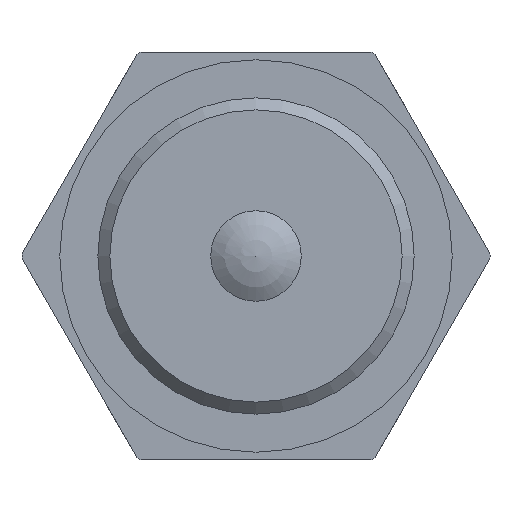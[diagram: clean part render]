
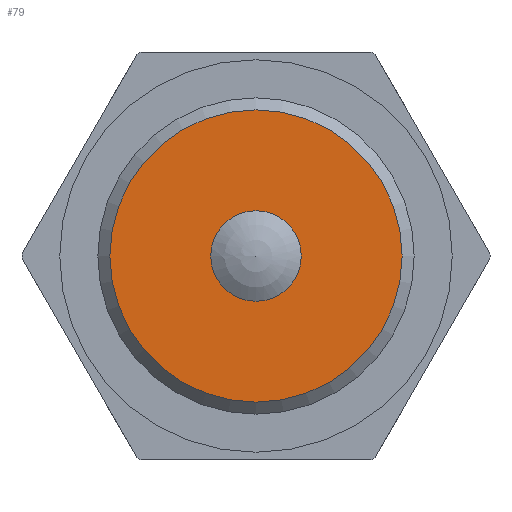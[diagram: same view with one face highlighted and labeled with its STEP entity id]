
A CAD part, front view. The second image highlights one B-rep face of the part: STEP entity #79.
In plain terms, the highlighted planar face has unit normal (0, -1, 0).
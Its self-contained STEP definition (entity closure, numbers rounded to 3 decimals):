
#79 = ADVANCED_FACE( '', ( #117, #118 ), #119, .F. );
#117 = FACE_BOUND( '', #191, .T. );
#118 = FACE_OUTER_BOUND( '', #192, .T. );
#119 = PLANE( '', #193 );
#191 = EDGE_LOOP( '', ( #280 ) );
#192 = EDGE_LOOP( '', ( #281 ) );
#193 = AXIS2_PLACEMENT_3D( '', #282, #283, #284 );
#280 = ORIENTED_EDGE( '', *, *, #477, .F. );
#281 = ORIENTED_EDGE( '', *, *, #478, .T. );
#282 = CARTESIAN_POINT( '', ( 9.678, -8.5, 0. ) );
#283 = DIRECTION( '', ( 0., 1., 0. ) );
#284 = DIRECTION( '', ( 0., 0., 1. ) );
#477 = EDGE_CURVE( '', #544, #544, #545, .T. );
#478 = EDGE_CURVE( '', #546, #546, #547, .T. );
#544 = VERTEX_POINT( '', #658 );
#545 = CIRCLE( '', #659, 3. );
#546 = VERTEX_POINT( '', #660 );
#547 = CIRCLE( '', #661, 9.678 );
#658 = CARTESIAN_POINT( '', ( 0., -8.5, -3. ) );
#659 = AXIS2_PLACEMENT_3D( '', #818, #819, #820 );
#660 = CARTESIAN_POINT( '', ( 0., -8.5, -9.678 ) );
#661 = AXIS2_PLACEMENT_3D( '', #821, #822, #823 );
#818 = CARTESIAN_POINT( '', ( 0., -8.5, 0. ) );
#819 = DIRECTION( '', ( 0., -1., 0. ) );
#820 = DIRECTION( '', ( 0., 0., -1. ) );
#821 = CARTESIAN_POINT( '', ( 0., -8.5, 0. ) );
#822 = DIRECTION( '', ( 0., -1., 0. ) );
#823 = DIRECTION( '', ( 0., 0., -1. ) );
